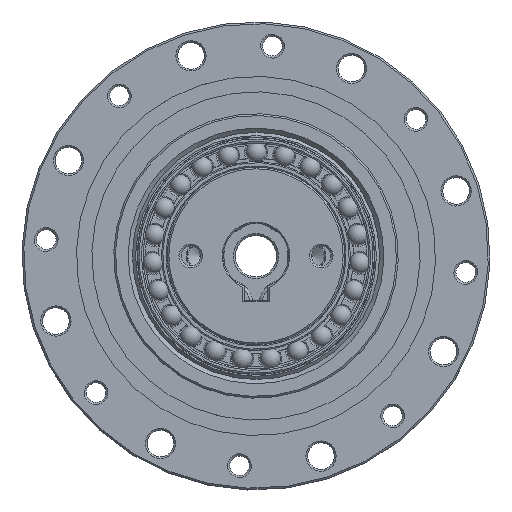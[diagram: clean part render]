
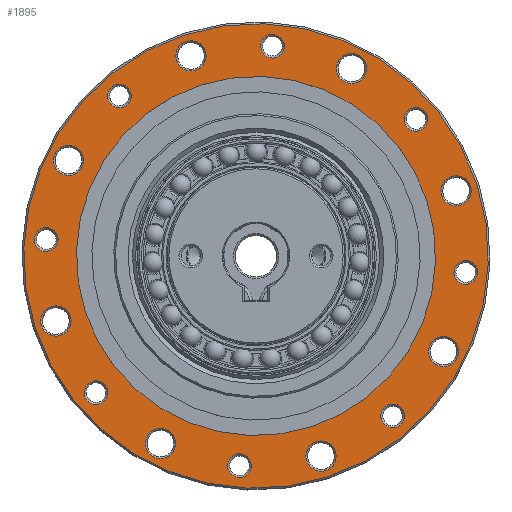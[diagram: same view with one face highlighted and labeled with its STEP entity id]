
A CAD part, top view. The second image highlights one B-rep face of the part: STEP entity #1895.
In plain terms, the highlighted planar face has unit normal (0, 0, 1).
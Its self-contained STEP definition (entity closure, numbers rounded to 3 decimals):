
#1895=ADVANCED_FACE('',(#2842,#2843,#2844,#2845,#2846,#2847,#2848,#2849,
#2850,#2851,#2852,#2853,#2854,#2855,#2856,#2857,#2858,#2859),#2365,.T.);
#2365=PLANE('',#9173);
#2842=FACE_BOUND('',#3752,.T.);
#2843=FACE_BOUND('',#3753,.T.);
#2844=FACE_BOUND('',#3754,.T.);
#2845=FACE_BOUND('',#3755,.T.);
#2846=FACE_BOUND('',#3756,.T.);
#2847=FACE_BOUND('',#3757,.T.);
#2848=FACE_BOUND('',#3758,.T.);
#2849=FACE_BOUND('',#3759,.T.);
#2850=FACE_BOUND('',#3760,.T.);
#2851=FACE_BOUND('',#3761,.T.);
#2852=FACE_BOUND('',#3762,.T.);
#2853=FACE_BOUND('',#3763,.T.);
#2854=FACE_BOUND('',#3764,.T.);
#2855=FACE_BOUND('',#3765,.T.);
#2856=FACE_BOUND('',#3766,.T.);
#2857=FACE_BOUND('',#3767,.T.);
#2858=FACE_BOUND('',#3768,.T.);
#2859=FACE_BOUND('',#3769,.T.);
#3752=EDGE_LOOP('',(#4817));
#3753=EDGE_LOOP('',(#4818));
#3754=EDGE_LOOP('',(#4819));
#3755=EDGE_LOOP('',(#4820));
#3756=EDGE_LOOP('',(#4821));
#3757=EDGE_LOOP('',(#4822));
#3758=EDGE_LOOP('',(#4823));
#3759=EDGE_LOOP('',(#4824));
#3760=EDGE_LOOP('',(#4825));
#3761=EDGE_LOOP('',(#4826));
#3762=EDGE_LOOP('',(#4827));
#3763=EDGE_LOOP('',(#4828));
#3764=EDGE_LOOP('',(#4829));
#3765=EDGE_LOOP('',(#4830));
#3766=EDGE_LOOP('',(#4831));
#3767=EDGE_LOOP('',(#4832));
#3768=EDGE_LOOP('',(#4833));
#3769=EDGE_LOOP('',(#4834));
#4817=ORIENTED_EDGE('',*,*,#7361,.T.);
#4818=ORIENTED_EDGE('',*,*,#7362,.T.);
#4819=ORIENTED_EDGE('',*,*,#7363,.T.);
#4820=ORIENTED_EDGE('',*,*,#7364,.T.);
#4821=ORIENTED_EDGE('',*,*,#7365,.T.);
#4822=ORIENTED_EDGE('',*,*,#7366,.T.);
#4823=ORIENTED_EDGE('',*,*,#7367,.T.);
#4824=ORIENTED_EDGE('',*,*,#7368,.T.);
#4825=ORIENTED_EDGE('',*,*,#7369,.T.);
#4826=ORIENTED_EDGE('',*,*,#7370,.T.);
#4827=ORIENTED_EDGE('',*,*,#7371,.T.);
#4828=ORIENTED_EDGE('',*,*,#7372,.T.);
#4829=ORIENTED_EDGE('',*,*,#7373,.T.);
#4830=ORIENTED_EDGE('',*,*,#7374,.T.);
#4831=ORIENTED_EDGE('',*,*,#7375,.T.);
#4832=ORIENTED_EDGE('',*,*,#7376,.T.);
#4833=ORIENTED_EDGE('',*,*,#7377,.T.);
#4834=ORIENTED_EDGE('',*,*,#7360,.F.);
#6556=VERTEX_POINT('',#13454);
#6557=VERTEX_POINT('',#13457);
#6558=VERTEX_POINT('',#13459);
#6559=VERTEX_POINT('',#13461);
#6560=VERTEX_POINT('',#13463);
#6561=VERTEX_POINT('',#13465);
#6562=VERTEX_POINT('',#13467);
#6563=VERTEX_POINT('',#13469);
#6564=VERTEX_POINT('',#13471);
#6565=VERTEX_POINT('',#13473);
#6566=VERTEX_POINT('',#13475);
#6567=VERTEX_POINT('',#13477);
#6568=VERTEX_POINT('',#13479);
#6569=VERTEX_POINT('',#13481);
#6570=VERTEX_POINT('',#13483);
#6571=VERTEX_POINT('',#13485);
#6572=VERTEX_POINT('',#13487);
#6573=VERTEX_POINT('',#13489);
#7360=EDGE_CURVE('',#6556,#6556,#8315,.T.);
#7361=EDGE_CURVE('',#6557,#6557,#8316,.T.);
#7362=EDGE_CURVE('',#6558,#6558,#8317,.T.);
#7363=EDGE_CURVE('',#6559,#6559,#8318,.T.);
#7364=EDGE_CURVE('',#6560,#6560,#8319,.T.);
#7365=EDGE_CURVE('',#6561,#6561,#8320,.T.);
#7366=EDGE_CURVE('',#6562,#6562,#8321,.T.);
#7367=EDGE_CURVE('',#6563,#6563,#8322,.T.);
#7368=EDGE_CURVE('',#6564,#6564,#8323,.T.);
#7369=EDGE_CURVE('',#6565,#6565,#8324,.T.);
#7370=EDGE_CURVE('',#6566,#6566,#8325,.T.);
#7371=EDGE_CURVE('',#6567,#6567,#8326,.T.);
#7372=EDGE_CURVE('',#6568,#6568,#8327,.T.);
#7373=EDGE_CURVE('',#6569,#6569,#8328,.T.);
#7374=EDGE_CURVE('',#6570,#6570,#8329,.T.);
#7375=EDGE_CURVE('',#6571,#6571,#8330,.T.);
#7376=EDGE_CURVE('',#6572,#6572,#8331,.T.);
#7377=EDGE_CURVE('',#6573,#6573,#8332,.T.);
#8315=CIRCLE('',#9154,39.2);
#8316=CIRCLE('',#9156,2.55);
#8317=CIRCLE('',#9157,2.);
#8318=CIRCLE('',#9158,2.55);
#8319=CIRCLE('',#9159,2.);
#8320=CIRCLE('',#9160,2.55);
#8321=CIRCLE('',#9161,2.);
#8322=CIRCLE('',#9162,2.55);
#8323=CIRCLE('',#9163,2.);
#8324=CIRCLE('',#9164,2.55);
#8325=CIRCLE('',#9165,2.);
#8326=CIRCLE('',#9166,2.55);
#8327=CIRCLE('',#9167,2.);
#8328=CIRCLE('',#9168,2.55);
#8329=CIRCLE('',#9169,2.);
#8330=CIRCLE('',#9170,2.55);
#8331=CIRCLE('',#9171,2.);
#8332=CIRCLE('',#9172,30.3);
#9154=AXIS2_PLACEMENT_3D('',#13453,#10815,#10816);
#9156=AXIS2_PLACEMENT_3D('',#13456,#10819,#10820);
#9157=AXIS2_PLACEMENT_3D('',#13458,#10821,#10822);
#9158=AXIS2_PLACEMENT_3D('',#13460,#10823,#10824);
#9159=AXIS2_PLACEMENT_3D('',#13462,#10825,#10826);
#9160=AXIS2_PLACEMENT_3D('',#13464,#10827,#10828);
#9161=AXIS2_PLACEMENT_3D('',#13466,#10829,#10830);
#9162=AXIS2_PLACEMENT_3D('',#13468,#10831,#10832);
#9163=AXIS2_PLACEMENT_3D('',#13470,#10833,#10834);
#9164=AXIS2_PLACEMENT_3D('',#13472,#10835,#10836);
#9165=AXIS2_PLACEMENT_3D('',#13474,#10837,#10838);
#9166=AXIS2_PLACEMENT_3D('',#13476,#10839,#10840);
#9167=AXIS2_PLACEMENT_3D('',#13478,#10841,#10842);
#9168=AXIS2_PLACEMENT_3D('',#13480,#10843,#10844);
#9169=AXIS2_PLACEMENT_3D('',#13482,#10845,#10846);
#9170=AXIS2_PLACEMENT_3D('',#13484,#10847,#10848);
#9171=AXIS2_PLACEMENT_3D('',#13486,#10849,#10850);
#9172=AXIS2_PLACEMENT_3D('',#13488,#10851,#10852);
#9173=AXIS2_PLACEMENT_3D('',#13490,#10853,#10854);
#10815=DIRECTION('',(0.,0.,-1.));
#10816=DIRECTION('',(-1.,0.,0.));
#10819=DIRECTION('',(0.,0.,-1.));
#10820=DIRECTION('',(1.,0.,0.));
#10821=DIRECTION('',(0.,0.,-1.));
#10822=DIRECTION('',(1.,0.,0.));
#10823=DIRECTION('',(0.,0.,-1.));
#10824=DIRECTION('',(1.,0.,0.));
#10825=DIRECTION('',(0.,0.,-1.));
#10826=DIRECTION('',(1.,0.,0.));
#10827=DIRECTION('',(0.,0.,-1.));
#10828=DIRECTION('',(1.,0.,0.));
#10829=DIRECTION('',(0.,0.,-1.));
#10830=DIRECTION('',(1.,0.,0.));
#10831=DIRECTION('',(0.,0.,-1.));
#10832=DIRECTION('',(1.,0.,0.));
#10833=DIRECTION('',(0.,0.,-1.));
#10834=DIRECTION('',(1.,0.,0.));
#10835=DIRECTION('',(0.,0.,-1.));
#10836=DIRECTION('',(1.,0.,0.));
#10837=DIRECTION('',(0.,0.,-1.));
#10838=DIRECTION('',(1.,0.,0.));
#10839=DIRECTION('',(0.,0.,-1.));
#10840=DIRECTION('',(1.,0.,0.));
#10841=DIRECTION('',(0.,0.,-1.));
#10842=DIRECTION('',(1.,0.,0.));
#10843=DIRECTION('',(0.,0.,-1.));
#10844=DIRECTION('',(1.,0.,0.));
#10845=DIRECTION('',(0.,0.,-1.));
#10846=DIRECTION('',(1.,0.,0.));
#10847=DIRECTION('',(0.,0.,-1.));
#10848=DIRECTION('',(1.,0.,0.));
#10849=DIRECTION('',(0.,0.,-1.));
#10850=DIRECTION('',(1.,0.,0.));
#10851=DIRECTION('',(0.,0.,-1.));
#10852=DIRECTION('',(-1.,0.,0.));
#10853=DIRECTION('',(0.,0.,1.));
#10854=DIRECTION('',(1.,0.,0.));
#13453=CARTESIAN_POINT('',(0.,0.,22.8));
#13454=CARTESIAN_POINT('',(-39.2,0.,22.8));
#13456=CARTESIAN_POINT('',(-25.102,25.102,22.8));
#13457=CARTESIAN_POINT('',(-22.552,25.102,22.8));
#13458=CARTESIAN_POINT('',(13.585,32.798,22.8));
#13459=CARTESIAN_POINT('',(15.585,32.798,22.8));
#13460=CARTESIAN_POINT('',(-35.5,0.,22.8));
#13461=CARTESIAN_POINT('',(-32.95,0.,22.8));
#13462=CARTESIAN_POINT('',(-13.585,32.798,22.8));
#13463=CARTESIAN_POINT('',(-11.585,32.798,22.8));
#13464=CARTESIAN_POINT('',(-25.102,-25.102,22.8));
#13465=CARTESIAN_POINT('',(-22.552,-25.102,22.8));
#13466=CARTESIAN_POINT('',(-32.798,13.585,22.8));
#13467=CARTESIAN_POINT('',(-30.798,13.585,22.8));
#13468=CARTESIAN_POINT('',(0.,-35.5,22.8));
#13469=CARTESIAN_POINT('',(2.55,-35.5,22.8));
#13470=CARTESIAN_POINT('',(-32.798,-13.585,22.8));
#13471=CARTESIAN_POINT('',(-30.798,-13.585,22.8));
#13472=CARTESIAN_POINT('',(25.102,-25.102,22.8));
#13473=CARTESIAN_POINT('',(27.652,-25.102,22.8));
#13474=CARTESIAN_POINT('',(-13.585,-32.798,22.8));
#13475=CARTESIAN_POINT('',(-11.585,-32.798,22.8));
#13476=CARTESIAN_POINT('',(35.5,0.,22.8));
#13477=CARTESIAN_POINT('',(38.05,0.,22.8));
#13478=CARTESIAN_POINT('',(13.585,-32.798,22.8));
#13479=CARTESIAN_POINT('',(15.585,-32.798,22.8));
#13480=CARTESIAN_POINT('',(25.102,25.102,22.8));
#13481=CARTESIAN_POINT('',(27.652,25.102,22.8));
#13482=CARTESIAN_POINT('',(32.798,-13.585,22.8));
#13483=CARTESIAN_POINT('',(34.798,-13.585,22.8));
#13484=CARTESIAN_POINT('',(0.,35.5,22.8));
#13485=CARTESIAN_POINT('',(2.55,35.5,22.8));
#13486=CARTESIAN_POINT('',(32.798,13.585,22.8));
#13487=CARTESIAN_POINT('',(34.798,13.585,22.8));
#13488=CARTESIAN_POINT('',(0.,0.,22.8));
#13489=CARTESIAN_POINT('',(-30.3,0.,22.8));
#13490=CARTESIAN_POINT('',(39.2,0.,22.8));
